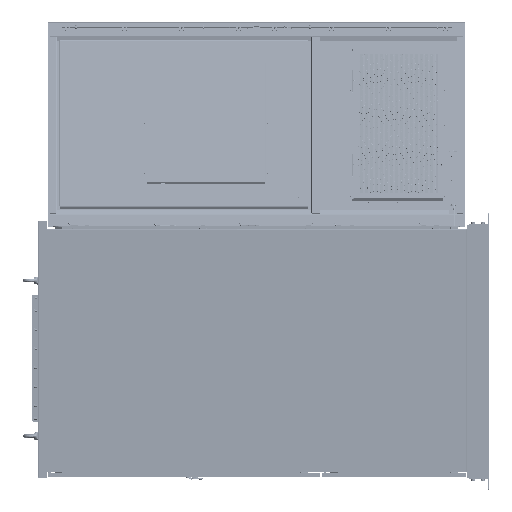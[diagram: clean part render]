
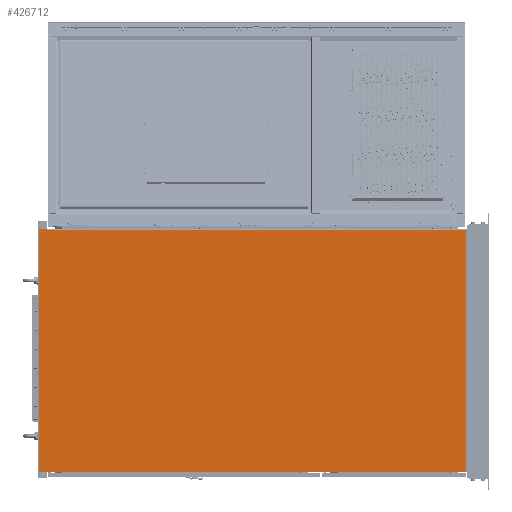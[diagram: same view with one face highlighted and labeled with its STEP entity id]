
A CAD part, left-side view. The second image highlights one B-rep face of the part: STEP entity #426712.
In plain terms, the highlighted planar face has unit normal (-1, 0, 0).
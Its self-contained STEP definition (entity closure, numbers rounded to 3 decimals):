
#61752 = EDGE_CURVE ( 'NONE', #485668, #739765, #403199, .T. ) ;
#80612 = ORIENTED_EDGE ( 'NONE', *, *, #599279, .T. ) ;
#117268 = FACE_OUTER_BOUND ( 'NONE', #565259, .T. ) ;
#136327 = DIRECTION ( 'NONE',  ( 0., 0., -1. ) ) ;
#166039 = CARTESIAN_POINT ( 'NONE',  ( 0., 1148.9, 640.8 ) ) ;
#173430 = EDGE_CURVE ( 'NONE', #879329, #941756, #269408, .T. ) ;
#195119 = EDGE_CURVE ( 'NONE', #554974, #859376, #475701, .T. ) ;
#229505 = DIRECTION ( 'NONE',  ( 0., -1., 0. ) ) ;
#251337 = LINE ( 'NONE', #354447, #773257 ) ;
#269408 = LINE ( 'NONE', #759918, #1187358 ) ;
#270351 = DIRECTION ( 'NONE',  ( 0., 0., 1. ) ) ;
#280594 = ORIENTED_EDGE ( 'NONE', *, *, #357395, .T. ) ;
#283617 = ORIENTED_EDGE ( 'NONE', *, *, #61752, .T. ) ;
#293748 = LINE ( 'NONE', #480951, #346215 ) ;
#312777 = CARTESIAN_POINT ( 'NONE',  ( 0., 1106.5, -638.2 ) ) ;
#344696 = VERTEX_POINT ( 'NONE', #511825 ) ;
#346215 = VECTOR ( 'NONE', #500072, 1000. ) ;
#354447 = CARTESIAN_POINT ( 'NONE',  ( 0., 1151.5, 640.8 ) ) ;
#357395 = EDGE_CURVE ( 'NONE', #859376, #750829, #519843, .T. ) ;
#363255 = AXIS2_PLACEMENT_3D ( 'NONE', #510801, #1104389, #136327 ) ;
#387131 = CARTESIAN_POINT ( 'NONE',  ( 0., -1105.5, -638.2 ) ) ;
#403199 = LINE ( 'NONE', #312777, #937417 ) ;
#416885 = VECTOR ( 'NONE', #690360, 1000. ) ;
#426712 = ADVANCED_FACE ( 'NONE', ( #117268 ), #1110764, .F. ) ;
#444360 = VECTOR ( 'NONE', #270351, 1000. ) ;
#459831 = EDGE_CURVE ( 'NONE', #879329, #344696, #293748, .T. ) ;
#463891 = LINE ( 'NONE', #573415, #444360 ) ;
#475701 = LINE ( 'NONE', #869455, #886039 ) ;
#480650 = CARTESIAN_POINT ( 'NONE',  ( 0., 1106.5, -640.8 ) ) ;
#480951 = CARTESIAN_POINT ( 'NONE',  ( 0., 1106.5, 638.2 ) ) ;
#485668 = VERTEX_POINT ( 'NONE', #1201685 ) ;
#500072 = DIRECTION ( 'NONE',  ( 0., -1., 0. ) ) ;
#510801 = CARTESIAN_POINT ( 'NONE',  ( 0., 1106.5, -640.8 ) ) ;
#511825 = CARTESIAN_POINT ( 'NONE',  ( 0., -1105.5, 638.2 ) ) ;
#519843 = LINE ( 'NONE', #1016707, #962959 ) ;
#554974 = VERTEX_POINT ( 'NONE', #166039 ) ;
#565259 = EDGE_LOOP ( 'NONE', ( #80612, #1275867, #940072, #1001458, #1058219, #280594, #812613, #283617 ) ) ;
#573415 = CARTESIAN_POINT ( 'NONE',  ( 0., 1106.5, -640.8 ) ) ;
#599279 = EDGE_CURVE ( 'NONE', #739765, #344696, #1083895, .T. ) ;
#690360 = DIRECTION ( 'NONE',  ( 0., 0., 1. ) ) ;
#719159 = DIRECTION ( 'NONE',  ( 0., -1., 0. ) ) ;
#739765 = VERTEX_POINT ( 'NONE', #740085 ) ;
#740085 = CARTESIAN_POINT ( 'NONE',  ( 0., -1105.5, -638.2 ) ) ;
#750829 = VERTEX_POINT ( 'NONE', #480650 ) ;
#759918 = CARTESIAN_POINT ( 'NONE',  ( 0., 1106.5, -640.8 ) ) ;
#765051 = EDGE_CURVE ( 'NONE', #554974, #941756, #251337, .T. ) ;
#773257 = VECTOR ( 'NONE', #1038489, 1000. ) ;
#812613 = ORIENTED_EDGE ( 'NONE', *, *, #840236, .T. ) ;
#840236 = EDGE_CURVE ( 'NONE', #750829, #485668, #463891, .T. ) ;
#855319 = CARTESIAN_POINT ( 'NONE',  ( 0., 1106.5, 640.8 ) ) ;
#859376 = VERTEX_POINT ( 'NONE', #1206623 ) ;
#869455 = CARTESIAN_POINT ( 'NONE',  ( 0., 1148.9, 640.8 ) ) ;
#879329 = VERTEX_POINT ( 'NONE', #907935 ) ;
#886039 = VECTOR ( 'NONE', #1166136, 1000. ) ;
#907935 = CARTESIAN_POINT ( 'NONE',  ( 0., 1106.5, 638.2 ) ) ;
#937417 = VECTOR ( 'NONE', #719159, 1000. ) ;
#940072 = ORIENTED_EDGE ( 'NONE', *, *, #173430, .T. ) ;
#941756 = VERTEX_POINT ( 'NONE', #855319 ) ;
#962959 = VECTOR ( 'NONE', #229505, 1000. ) ;
#1001458 = ORIENTED_EDGE ( 'NONE', *, *, #765051, .F. ) ;
#1016707 = CARTESIAN_POINT ( 'NONE',  ( 0., 1151.5, -640.8 ) ) ;
#1038489 = DIRECTION ( 'NONE',  ( 0., -1., 0. ) ) ;
#1058219 = ORIENTED_EDGE ( 'NONE', *, *, #195119, .T. ) ;
#1062911 = DIRECTION ( 'NONE',  ( 0., 0., 1. ) ) ;
#1083895 = LINE ( 'NONE', #387131, #416885 ) ;
#1104389 = DIRECTION ( 'NONE',  ( 1., 0., 0. ) ) ;
#1110764 = PLANE ( 'NONE',  #363255 ) ;
#1166136 = DIRECTION ( 'NONE',  ( 0., 0., -1. ) ) ;
#1187358 = VECTOR ( 'NONE', #1062911, 1000. ) ;
#1201685 = CARTESIAN_POINT ( 'NONE',  ( 0., 1106.5, -638.2 ) ) ;
#1206623 = CARTESIAN_POINT ( 'NONE',  ( 0., 1148.9, -640.8 ) ) ;
#1275867 = ORIENTED_EDGE ( 'NONE', *, *, #459831, .F. ) ;
